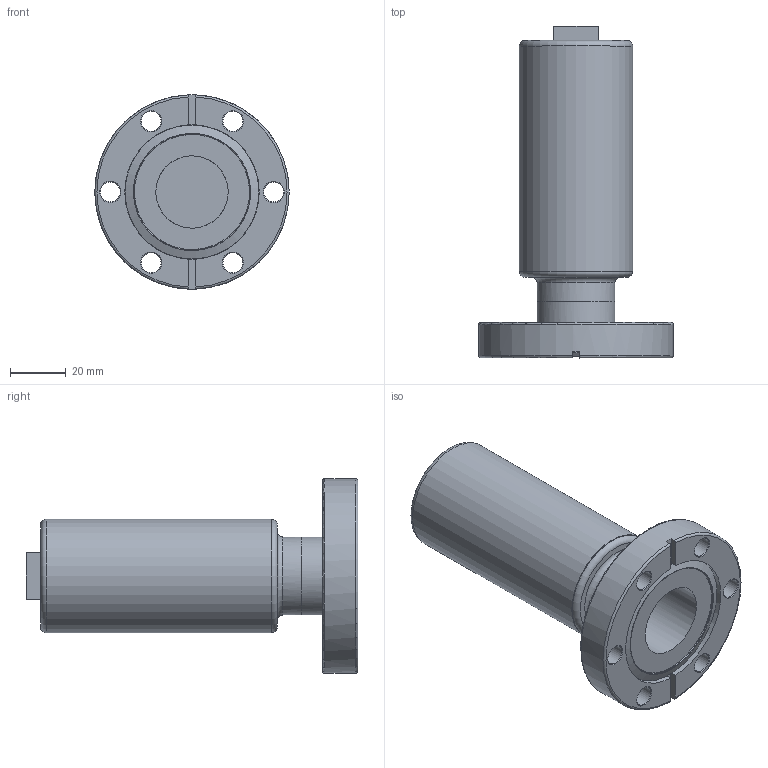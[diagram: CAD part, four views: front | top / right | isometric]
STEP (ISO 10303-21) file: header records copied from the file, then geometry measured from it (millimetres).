
FILE_DESCRIPTION((''),'2;1');
FILE_NAME('C:\Users\HestbeMa\Desktop\20150728_Martin_Changes_1over8_CF40\CF40\Part1.stp','2015-07-28T15:09:34',('HestbeMa'),(''),'Autodesk Inventor 2013','Autodesk Inventor 2013','');
FILE_SCHEMA(('CONFIG_CONTROL_DESIGN'));
Length unit declared in the file: millimetre
Products named in the file (1): Part1
Bounding box: 69.85 x 119.22 x 69.85 mm (x, y, z)
Volume: 126125.2 mm3; surface area: 35422.5 mm2
Topology: 1 solids, 9 shells, 132 faces, 275 edges, 172 vertices
Faces by surface type: plane 63, cylinder 36, cone 25, torus 8
Full cylindrical faces by diameter (mm): 1.567 x7, 3 x1, 5 x1, 5.2 x1, 7.137 x6, 22.8 x1, 24.2 x2, 25 x3, 26 x3, 26.01 x1, 27.991 x1, 28 x1, 40.6 x1, 40.75 x1, 44.958 x1, 48.133 x1, 48.324 x1, 69.85 x1
Entity records: 3228 total; most frequent: CARTESIAN_POINT 581, DIRECTION 550, ORIENTED_EDGE 384, AXIS2_PLACEMENT_3D 231, EDGE_LOOP 224, EDGE_CURVE 192, VERTEX_POINT 154, FACE_OUTER_BOUND 132
